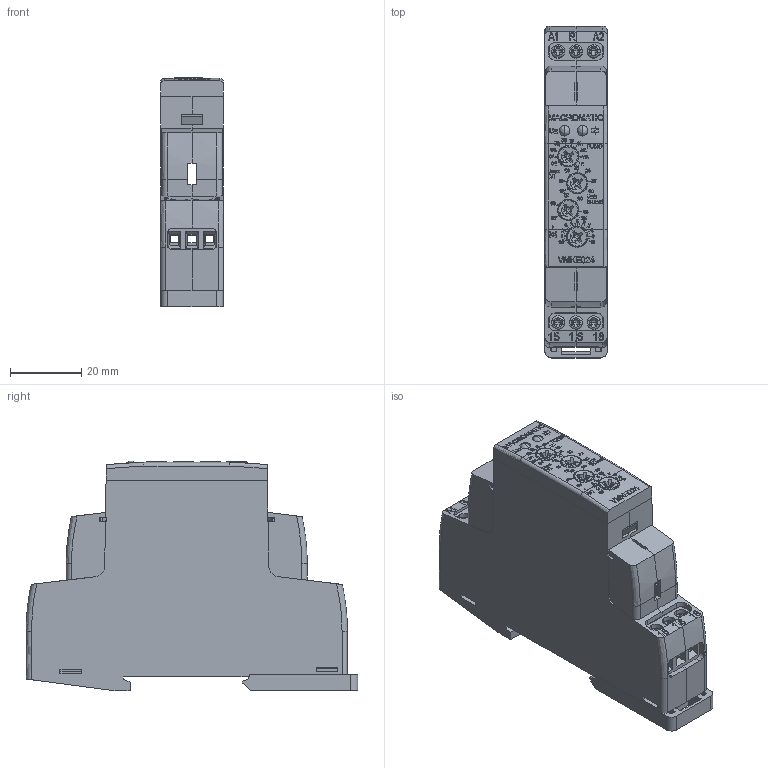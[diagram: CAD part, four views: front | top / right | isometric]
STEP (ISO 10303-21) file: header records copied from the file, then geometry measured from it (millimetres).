
FILE_DESCRIPTION(('FreeCAD Model'),'2;1');
FILE_NAME('Open CASCADE Shape Model','2025-03-12T21:00:11',('Author'),( ''),'Open CASCADE STEP processor 7.6','FreeCAD','Unknown');
FILE_SCHEMA(('AUTOMOTIVE_DESIGN { 1 0 10303 214 1 1 1 1 }'));
Length unit declared in the file: millimetre
Products named in the file (203): Document; COMPOUND016; COMPOUND; COMPOUND001; COMPOUND002; COMPOUND003; COMPOUND004; COMPOUND005; COMPOUND006; COMPOUND007; COMPOUND008; COMPOUND009; COMPOUND010; COMPOUND011; COMPOUND012; COMPOUND013; COMPOUND014; COMPOUND015; COMPOUND201; COMPOUND017; COMPOUND018; COMPOUND019; COMPOUND020; COMPOUND021; COMPOUND022; COMPOUND023; COMPOUND024; COMPOUND025; COMPOUND026; COMPOUND027; COMPOUND028; COMPOUND029; COMPOUND030; COMPOUND031; COMPOUND032; COMPOUND033; COMPOUND034; COMPOUND035; COMPOUND036; COMPOUND037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
Assembly tree (202 placements, depth 3):
  Document
    COMPOUND016
      COMPOUND
      COMPOUND001
      COMPOUND002
      COMPOUND003
      COMPOUND004
      COMPOUND005
      COMPOUND006
      COMPOUND007
      COMPOUND008
      COMPOUND009
      COMPOUND010
      COMPOUND011
      COMPOUND012
      COMPOUND013
      COMPOUND014
      COMPOUND015
    COMPOUND201
      COMPOUND017
      COMPOUND018
      COMPOUND019
      COMPOUND020
      COMPOUND021
      COMPOUND022
      COMPOUND023
      COMPOUND024
      COMPOUND025
      COMPOUND026
      COMPOUND027
      COMPOUND028
      COMPOUND029
      COMPOUND030
      COMPOUND031
      COMPOUND032
      COMPOUND033
      COMPOUND034
      COMPOUND035
      COMPOUND036
      COMPOUND037
      COMPOUND038
      COMPOUND039
      COMPOUND040
      COMPOUND041
      COMPOUND042
      COMPOUND043
      COMPOUND044
      COMPOUND045
      COMPOUND046
      COMPOUND047
      COMPOUND048
      COMPOUND049
      COMPOUND050
      COMPOUND051
      COMPOUND052
      COMPOUND053
      COMPOUND054
      COMPOUND055
      COMPOUND056
      COMPOUND057
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Bounding box: 17.6 x 92.95 x 64.4 mm (x, y, z)
Volume: 19876.1 mm3; surface area: 36469.1 mm2
Topology: 16 solids, 200 shells, 1762 faces, 6134 edges, 4535 vertices
Faces by surface type: plane 1047, bspline 715
Entity records: 92188 total; most frequent: CARTESIAN_POINT 50202, ORIENTED_EDGE 10558, EDGE_CURVE 6110, B_SPLINE_CURVE_WITH_KNOTS 5112, VERTEX_POINT 4535, DIRECTION 2500, FACE_BOUND 1869, EDGE_LOOP 1869
